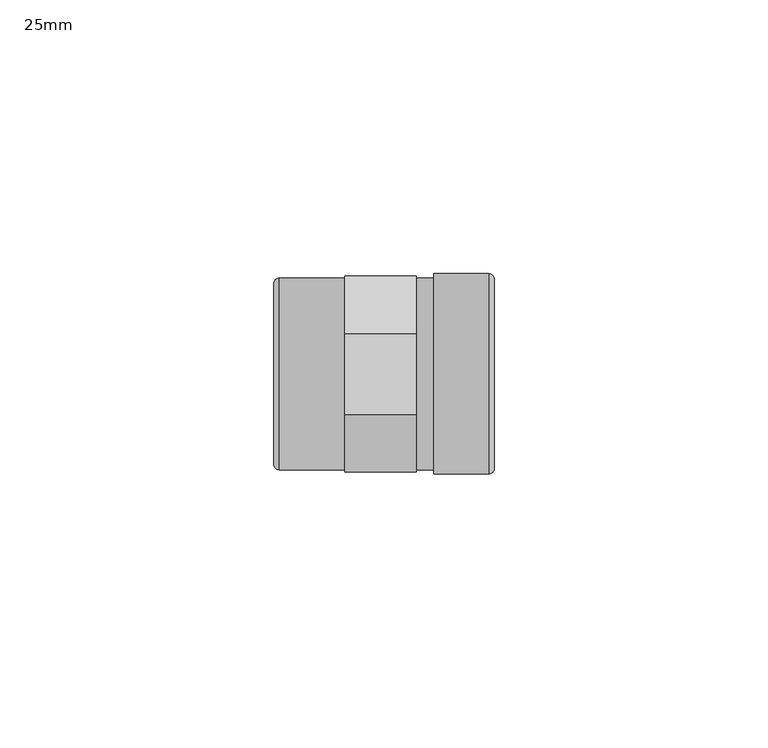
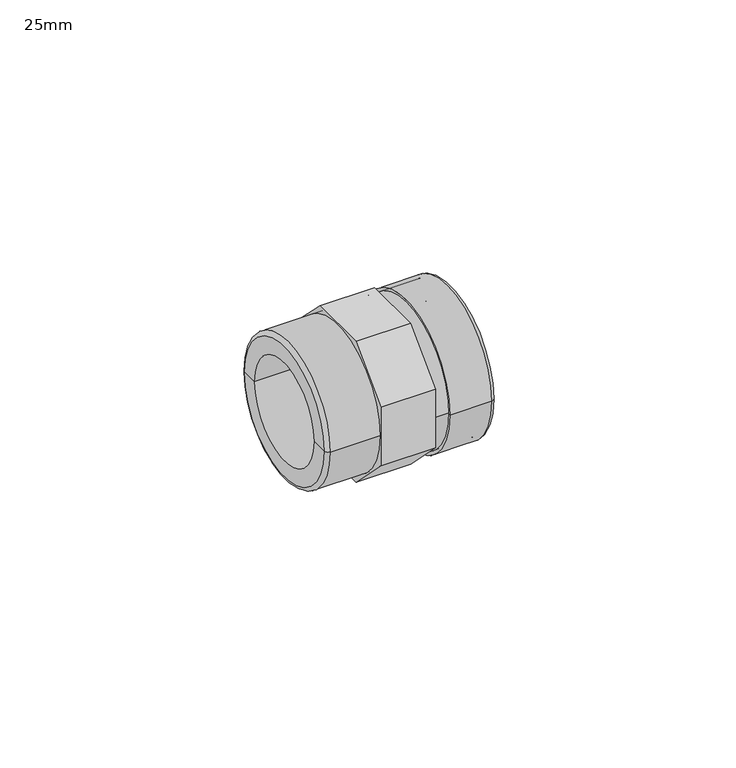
"""IFC4 building model written with IfcOpenShell, lengths in millimetres: pipe fitting geometry, Durapipe_PipeFitting_PVC_PlainThreadedSockets : 25mm."""

from ifc_helpers import new_model, si_unit, point, frame, origin, origin_2d, place, context, project, spatial, polyline, circle_curve, ellipse_curve, trimmed, segment, composite_curve, outline, extrude, source, transform, mapped, element, save
from ifc_brep_helpers import plane_surface, cylinder_surface, revolved_surface, advanced_brep


def pipe_fitting_25mm_9b53985b(model_context):
    return source(origin(), model_context, "Body", "SolidModel", [
        extrude(outline(polyline([(-17.9, 7.4144228), (-7.4144228, 17.9), (7.4144228, 17.9), (17.9, 7.4144228), (17.9, -7.4144228), (7.4144228, -17.9), (-7.4144228, -17.9), (-17.9, -7.4144228), (-17.9, 7.4144228)]), holes=[composite_curve([segment(trimmed(circle_curve(origin_2d(), 17.5), [point((-17.5, 0.0))], [point((17.5, 0.0))], True, "CARTESIAN"), True, "CONTINUOUS"), segment(trimmed(circle_curve(origin_2d(), 17.5), [point((17.5, 0.0))], [point((-17.5, 0.0))], True, "CARTESIAN"), True, "CONTINUOUS")], self_intersect=False)]), frame((-7.95, 0.0, 0.0), z_axis=(1.0, 0.0, 0.0), x_axis=(0.0, 1.0, 0.0)), (0.0, 0.0, 1.0), 13.1),
        advanced_brep(
        [(17.35, -17.5, 0.0), (17.35, 17.5, 0.0), (17.35, 12.5, 0.0), (17.35, -12.5, 0.0), (-19.85, -17.5, 0.0), (-19.85, 17.5, 0.0), (-20.85, -12.5, 0.0), (-20.85, 12.5, 0.0), (-20.85, 16.5, 0.0), (-20.85, -16.5, 0.0), (-1.35, -12.5, 0.0), (-1.35, 12.5, 0.0), (-1.35, -11.2, 0.0), (-1.35, 11.2, 0.0), (1.35, -11.2, 0.0), (1.35, 11.2, 0.0), (1.35, -12.5, 0.0), (1.35, 12.5, 0.0)],
        [
            (0, 1, circle_curve(frame((17.35, 0.0, 0.0), z_axis=(1.0, 0.0, 0.0), x_axis=(0.0, 1.0, 0.0)), 17.5)),
            (1, 2),
            (2, 3, circle_curve(frame((17.35, 0.0, 0.0), z_axis=(-1.0, 0.0, 0.0), x_axis=(0.0, 1.0, 0.0)), 12.5)),
            (3, 0),
            (1, 0, circle_curve(frame((17.35, 0.0, 0.0), z_axis=(1.0, 0.0, 0.0), x_axis=(0.0, 1.0, 0.0)), 17.5)),
            (3, 2, circle_curve(frame((17.35, 0.0, 0.0), z_axis=(-1.0, 0.0, 0.0), x_axis=(0.0, 1.0, 0.0)), 12.5)),
            (4, 5, circle_curve(frame((-19.85, 0.0, 0.0), z_axis=(1.0, 0.0, 0.0), x_axis=(0.0, 1.0, 0.0)), 17.5)),
            (5, 1),
            (0, 4),
            (5, 4, circle_curve(frame((-19.85, 0.0, 0.0), z_axis=(1.0, 0.0, 0.0), x_axis=(0.0, 1.0, 0.0)), 17.5)),
            (6, 7, circle_curve(frame((-20.85, 0.0, 0.0), z_axis=(1.0, 0.0, 0.0), x_axis=(0.0, 1.0, 0.0)), 12.5)),
            (7, 8),
            (8, 9, circle_curve(frame((-20.85, 0.0, 0.0), z_axis=(-1.0, 0.0, 0.0), x_axis=(0.0, 1.0, 0.0)), 16.5)),
            (9, 6),
            (7, 6, circle_curve(frame((-20.85, 0.0, 0.0), z_axis=(1.0, 0.0, 0.0), x_axis=(0.0, 1.0, 0.0)), 12.5)),
            (9, 8, circle_curve(frame((-20.85, 0.0, 0.0), z_axis=(-1.0, 0.0, 0.0), x_axis=(0.0, 1.0, 0.0)), 16.5)),
            (10, 11, circle_curve(frame((-1.35, 0.0, 0.0), z_axis=(1.0, 0.0, 0.0), x_axis=(0.0, 1.0, 0.0)), 12.5)),
            (11, 7),
            (6, 10),
            (11, 10, circle_curve(frame((-1.35, 0.0, 0.0), z_axis=(1.0, 0.0, 0.0), x_axis=(0.0, 1.0, 0.0)), 12.5)),
            (12, 13, circle_curve(frame((-1.35, 0.0, 0.0), z_axis=(1.0, 0.0, 0.0), x_axis=(0.0, 1.0, 0.0)), 11.2)),
            (13, 11),
            (10, 12),
            (13, 12, circle_curve(frame((-1.35, 0.0, 0.0), z_axis=(1.0, 0.0, 0.0), x_axis=(0.0, 1.0, 0.0)), 11.2)),
            (14, 15, circle_curve(frame((1.35, 0.0, 0.0), z_axis=(1.0, 0.0, 0.0), x_axis=(0.0, 1.0, 0.0)), 11.2)),
            (15, 13),
            (12, 14),
            (15, 14, circle_curve(frame((1.35, 0.0, 0.0), z_axis=(1.0, 0.0, 0.0), x_axis=(0.0, 1.0, 0.0)), 11.2)),
            (16, 17, circle_curve(frame((1.35, 0.0, 0.0), z_axis=(1.0, 0.0, 0.0), x_axis=(0.0, 1.0, 0.0)), 12.5)),
            (17, 15),
            (14, 16),
            (17, 16, circle_curve(frame((1.35, 0.0, 0.0), z_axis=(1.0, 0.0, 0.0), x_axis=(0.0, 1.0, 0.0)), 12.5)),
            (2, 17),
            (16, 3),
            (8, 5, circle_curve(frame((-19.85, 16.5, 0.0), z_axis=(0.0, 0.0, -1.0), x_axis=(1.0, 0.0, 0.0)), 1.0)),
            (4, 9, circle_curve(frame((-19.85, -16.5, 0.0), z_axis=(0.0, 0.0, -1.0), x_axis=(1.0, 0.0, 0.0)), 1.0)),
        ],
        [
            plane_surface(frame((17.35, 0.0, 0.0), z_axis=(1.0, 0.0, 0.0), x_axis=(0.0, 1.0, 0.0))),
            cylinder_surface(frame((-36.4346764, 0.0, 0.0), z_axis=(-1.0, 0.0, 0.0), x_axis=(0.0, 1.0, 0.0)), 17.5),
            plane_surface(frame((-20.85, 0.0, 0.0), z_axis=(-1.0, 0.0, 0.0), x_axis=(0.0, 1.0, 0.0))),
            revolved_surface(polyline([(-20.85, 12.5, 0.0), (-1.3500000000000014, 12.5, 0.0)]), (-36.4346764, 0.0, 0.0), (-1.0, 0.0, 0.0)),
            plane_surface(frame((-1.35, 0.0, 0.0), z_axis=(-1.0, 0.0, 0.0), x_axis=(0.0, 1.0, 0.0))),
            revolved_surface(polyline([(-1.3500000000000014, 11.2, 0.0), (1.3500000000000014, 11.2, 0.0)]), (-36.4346764, 0.0, 0.0), (-1.0, 0.0, 0.0)),
            plane_surface(frame((1.35, 0.0, 0.0), z_axis=(1.0, 0.0, 0.0), x_axis=(0.0, 1.0, 0.0))),
            revolved_surface(polyline([(1.3500000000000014, 12.5, 0.0), (17.35, 12.5, 0.0)]), (-36.4346764, 0.0, 0.0), (-1.0, 0.0, 0.0)),
            revolved_surface(trimmed(ellipse_curve(frame((-19.85, 16.5, 0.0), z_axis=(0.0, 0.0, 1.0), x_axis=(1.0, 0.0, 0.0)), 1.0, 1.0), [point((-19.85, 17.5, 0.0))], [point((-20.85, 16.5, 0.0))], True, "CARTESIAN"), (-36.4346764, 0.0, 0.0), (-1.0, 0.0, 0.0)),
        ],
        [
            (0, [[1, 2, 3, 4]]),
            (0, [[5, -4, 6, -2]]),
            (1, [[7, 8, -1, 9]]),
            (1, [[10, -9, -5, -8]]),
            (2, [[11, 12, 13, 14]]),
            (2, [[15, -14, 16, -12]]),
            (3, [[17, 18, -11, 19]]),
            (3, [[20, -19, -15, -18]]),
            (4, [[21, 22, -17, 23]]),
            (4, [[24, -23, -20, -22]]),
            (5, [[25, 26, -21, 27]]),
            (5, [[28, -27, -24, -26]]),
            (6, [[29, 30, -25, 31]]),
            (6, [[32, -31, -28, -30]]),
            (7, [[-3, 33, -29, 34]]),
            (7, [[-6, -34, -32, -33]]),
            (8, [[-13, 35, -7, 36]]),
            (8, [[-16, -36, -10, -35]]),
        ],
    ),
        advanced_brep(
        [(8.35, -17.5, 0.0), (8.35, 17.5, 0.0), (8.35, 18.3, 0.0), (8.35, -18.3, 0.0), (17.35, -17.5, 0.0), (17.35, 17.5, 0.0), (17.35, -13.3, 0.0), (17.35, 13.3, 0.0), (19.35, -13.3, 0.0), (19.35, 13.3, 0.0), (19.35, -17.3, 0.0), (19.35, 17.3, 0.0), (18.35, 18.3, 0.0), (18.35, -18.3, 0.0)],
        [
            (0, 1, circle_curve(frame((8.35, 0.0, 0.0), z_axis=(1.0, 0.0, 0.0), x_axis=(0.0, 1.0, 0.0)), 17.5)),
            (1, 2),
            (2, 3, circle_curve(frame((8.35, 0.0, 0.0), z_axis=(-1.0, 0.0, 0.0), x_axis=(0.0, 1.0, 0.0)), 18.3)),
            (3, 0),
            (1, 0, circle_curve(frame((8.35, 0.0, 0.0), z_axis=(1.0, 0.0, 0.0), x_axis=(0.0, 1.0, 0.0)), 17.5)),
            (3, 2, circle_curve(frame((8.35, 0.0, 0.0), z_axis=(-1.0, 0.0, 0.0), x_axis=(0.0, 1.0, 0.0)), 18.3)),
            (4, 5, circle_curve(frame((17.35, 0.0, 0.0), z_axis=(1.0, 0.0, 0.0), x_axis=(0.0, 1.0, 0.0)), 17.5)),
            (5, 1),
            (0, 4),
            (5, 4, circle_curve(frame((17.35, 0.0, 0.0), z_axis=(1.0, 0.0, 0.0), x_axis=(0.0, 1.0, 0.0)), 17.5)),
            (6, 7, circle_curve(frame((17.35, 0.0, 0.0), z_axis=(1.0, 0.0, 0.0), x_axis=(0.0, 1.0, 0.0)), 13.3)),
            (7, 5),
            (4, 6),
            (7, 6, circle_curve(frame((17.35, 0.0, 0.0), z_axis=(1.0, 0.0, 0.0), x_axis=(0.0, 1.0, 0.0)), 13.3)),
            (8, 9, circle_curve(frame((19.35, 0.0, 0.0), z_axis=(1.0, 0.0, 0.0), x_axis=(0.0, 1.0, 0.0)), 13.3)),
            (9, 7),
            (6, 8),
            (9, 8, circle_curve(frame((19.35, 0.0, 0.0), z_axis=(1.0, 0.0, 0.0), x_axis=(0.0, 1.0, 0.0)), 13.3)),
            (10, 11, circle_curve(frame((19.35, 0.0, 0.0), z_axis=(1.0, 0.0, 0.0), x_axis=(0.0, 1.0, 0.0)), 17.3)),
            (11, 9),
            (8, 10),
            (11, 10, circle_curve(frame((19.35, 0.0, 0.0), z_axis=(1.0, 0.0, 0.0), x_axis=(0.0, 1.0, 0.0)), 17.3)),
            (2, 12),
            (12, 13, circle_curve(frame((18.35, 0.0, 0.0), z_axis=(-1.0, 0.0, 0.0), x_axis=(0.0, 1.0, 0.0)), 18.3)),
            (13, 3),
            (13, 12, circle_curve(frame((18.35, 0.0, 0.0), z_axis=(-1.0, 0.0, 0.0), x_axis=(0.0, 1.0, 0.0)), 18.3)),
            (12, 11, circle_curve(frame((18.35, 17.3, 0.0), z_axis=(0.0, 0.0, -1.0), x_axis=(1.0, 0.0, 0.0)), 1.0)),
            (10, 13, circle_curve(frame((18.35, -17.3, 0.0), z_axis=(0.0, 0.0, -1.0), x_axis=(1.0, 0.0, 0.0)), 1.0)),
        ],
        [
            plane_surface(frame((8.35, 0.0, 0.0), z_axis=(-1.0, 0.0, 0.0), x_axis=(0.0, 1.0, 0.0))),
            revolved_surface(polyline([(8.349999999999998, 17.5, 0.0), (17.35, 17.5, 0.0)]), (25.2537641, 0.0, 0.0), (-1.0, 0.0, 0.0)),
            plane_surface(frame((17.35, 0.0, 0.0), z_axis=(-1.0, 0.0, 0.0), x_axis=(0.0, 1.0, 0.0))),
            revolved_surface(polyline([(17.35, 13.3, 0.0), (19.35, 13.3, 0.0)]), (25.2537641, 0.0, 0.0), (-1.0, 0.0, 0.0)),
            plane_surface(frame((19.35, 0.0, 0.0), z_axis=(1.0, 0.0, 0.0), x_axis=(0.0, 1.0, 0.0))),
            cylinder_surface(frame((25.2537641, 0.0, 0.0), z_axis=(-1.0, 0.0, 0.0), x_axis=(0.0, 1.0, 0.0)), 18.3),
            revolved_surface(trimmed(ellipse_curve(frame((18.35, 17.3, 0.0), z_axis=(0.0, 0.0, 1.0), x_axis=(1.0, 0.0, 0.0)), 1.0, 1.0), [point((19.35, 17.3, 0.0))], [point((18.35, 18.3, 0.0))], True, "CARTESIAN"), (25.2537641, 0.0, 0.0), (-1.0, 0.0, 0.0)),
        ],
        [
            (0, [[1, 2, 3, 4]]),
            (0, [[5, -4, 6, -2]]),
            (1, [[7, 8, -1, 9]]),
            (1, [[10, -9, -5, -8]]),
            (2, [[11, 12, -7, 13]]),
            (2, [[14, -13, -10, -12]]),
            (3, [[15, 16, -11, 17]]),
            (3, [[18, -17, -14, -16]]),
            (4, [[19, 20, -15, 21]]),
            (4, [[22, -21, -18, -20]]),
            (5, [[-3, 23, 24, 25]]),
            (5, [[-6, -25, 26, -23]]),
            (6, [[-24, 27, -19, 28]]),
            (6, [[-26, -28, -22, -27]]),
        ],
    ),
    ])


if __name__ == "__main__":
    model = new_model("IFC4")
    model_context = context("Model", 3, world=origin())
    ifc_project = project(units=[si_unit("LENGTHUNIT", "METRE", prefix="MILLI")], contexts=[model_context])
    site = spatial("IfcSite", under=ifc_project)
    building = spatial("IfcBuilding", under=site)
    placement = place(None, origin())
    pipe_fitting_25mm_shape = pipe_fitting_25mm_9b53985b(model_context)
    element("IfcPipeFitting", 1, ObjectType="Durapipe_PipeFitting_PVC_PlainThreadedSockets : 25mm", at=placement, inside=building, context=model_context, shape_type="MappedRepresentation", body=[
        mapped(pipe_fitting_25mm_shape, transform((0.0, 0.0, 0.0), x_axis=(1.0, 0.0, 0.0), y_axis=(0.0, 1.0, 0.0), z_axis=(0.0, 0.0, 1.0))),
    ])
    save(model, "model.ifc")
